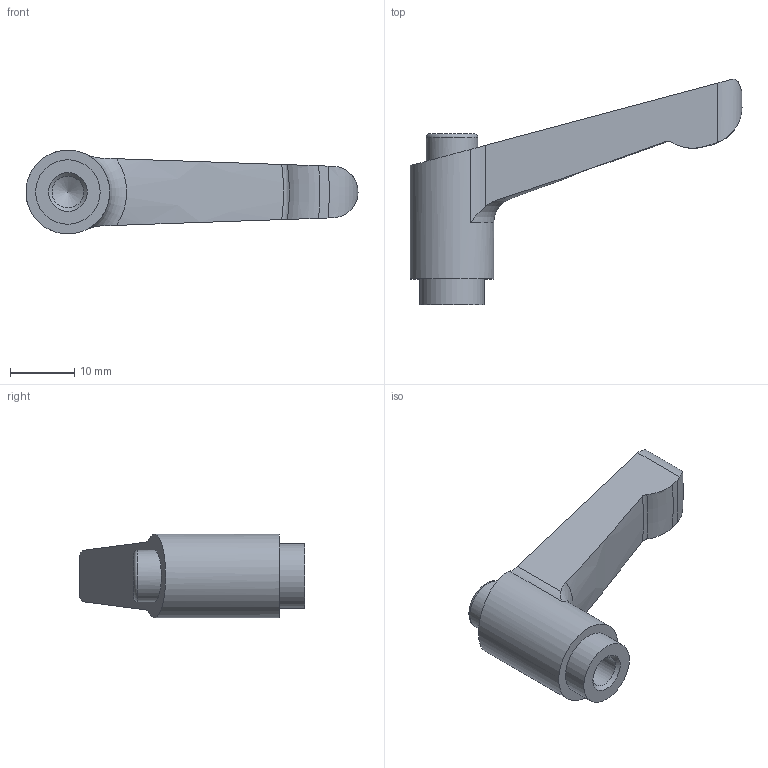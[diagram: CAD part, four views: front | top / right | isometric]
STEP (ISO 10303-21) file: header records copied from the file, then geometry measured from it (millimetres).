
FILE_DESCRIPTION( ( 'STEP AP203' ), '1' );
FILE_NAME( 'C:/Temp/Ganter_Step_05_03_2020/data/2_1/gn303_1/gn303_1_b/Adjustable hand lever GN 303.1-45-M6-SW-G.stp', '2020-03-05T11:21:55', ( 'License CC BY-ND 4.0' ), ( 'CADENAS' ), ' ', 'PARTsolutions', ' ' );
FILE_SCHEMA( ( 'CONFIG_CONTROL_DESIGN' ) );
Length unit declared in the file: millimetre
Products named in the file (1): _Adjustable hand lever GN 303.1-45-M6-SW-G
Bounding box: 51.49 x 35 x 12.99 mm (x, y, z)
Volume: 5755 mm3; surface area: 2760.3 mm2
Topology: 1 solids, 1 shells, 24 faces, 59 edges, 39 vertices
Faces by surface type: cylinder 7, plane 6, torus 6, cone 5
Full cylindrical faces by diameter (mm): 4.917 x1, 8 x1, 10 x1, 13 x1
Entity records: 834 total; most frequent: CARTESIAN_POINT 283, DIRECTION 100, ORIENTED_EDGE 98, EDGE_CURVE 49, AXIS2_PLACEMENT_3D 46, VERTEX_POINT 37, EDGE_LOOP 33, FACE_OUTER_BOUND 29
